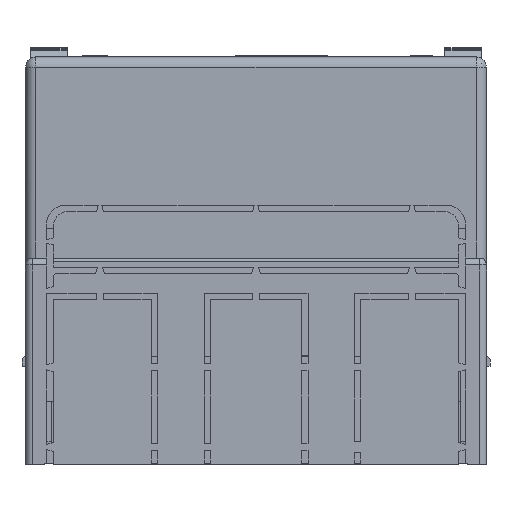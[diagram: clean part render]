
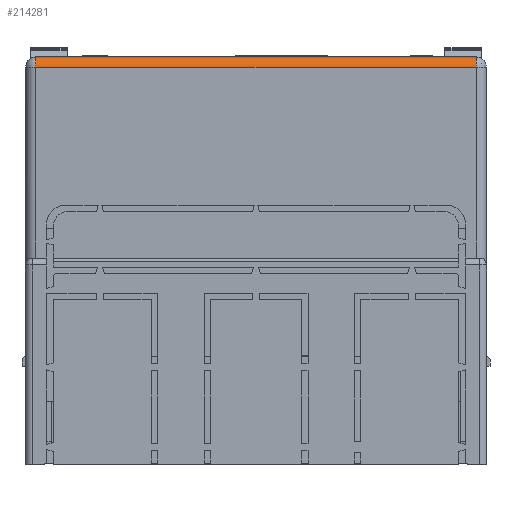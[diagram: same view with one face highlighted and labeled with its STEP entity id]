
A CAD part, left-side view. The second image highlights one B-rep face of the part: STEP entity #214281.
In plain terms, the highlighted cylindrical face has radius 3 mm (diameter 6 mm), a partial arc.
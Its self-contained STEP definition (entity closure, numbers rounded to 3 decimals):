
#6467 = EDGE_CURVE ( 'NONE', #32351, #105534, #76362, .T. ) ;
#11832 = LINE ( 'NONE', #180561, #218355 ) ;
#14638 = ORIENTED_EDGE ( 'NONE', *, *, #203764, .F. ) ;
#22490 = DIRECTION ( 'NONE',  ( 1., 0., 0. ) ) ;
#29058 = DIRECTION ( 'NONE',  ( 0., -1., 0. ) ) ;
#32351 = VERTEX_POINT ( 'NONE', #153408 ) ;
#37476 = ORIENTED_EDGE ( 'NONE', *, *, #254498, .F. ) ;
#54032 = CARTESIAN_POINT ( 'NONE',  ( -5.103, 139.752, -8.036 ) ) ;
#55521 = CARTESIAN_POINT ( 'NONE',  ( -8.103, 139.752, -11.036 ) ) ;
#76362 = LINE ( 'NONE', #103376, #136939 ) ;
#80007 = CARTESIAN_POINT ( 'NONE',  ( -5.103, 316.131, -11.036 ) ) ;
#81771 = DIRECTION ( 'NONE',  ( 0., 1., 0. ) ) ;
#103376 = CARTESIAN_POINT ( 'NONE',  ( -8.103, 9.752, -11.036 ) ) ;
#105534 = VERTEX_POINT ( 'NONE', #55521 ) ;
#112753 = AXIS2_PLACEMENT_3D ( 'NONE', #257951, #281639, #22490 ) ;
#116995 = ORIENTED_EDGE ( 'NONE', *, *, #161727, .F. ) ;
#125200 = DIRECTION ( 'NONE',  ( 0., -1., 0. ) ) ;
#131970 = DIRECTION ( 'NONE',  ( 1., 0., 0. ) ) ;
#136939 = VECTOR ( 'NONE', #81771, 1000. ) ;
#147644 = AXIS2_PLACEMENT_3D ( 'NONE', #80007, #29058, #131970 ) ;
#153408 = CARTESIAN_POINT ( 'NONE',  ( -8.103, 12.752, -11.036 ) ) ;
#158115 = FACE_OUTER_BOUND ( 'NONE', #159289, .T. ) ;
#159289 = EDGE_LOOP ( 'NONE', ( #263742, #14638, #37476, #116995 ) ) ;
#161727 = EDGE_CURVE ( 'NONE', #105534, #220985, #288124, .T. ) ;
#180561 = CARTESIAN_POINT ( 'NONE',  ( -5.103, 9.752, -8.036 ) ) ;
#203764 = EDGE_CURVE ( 'NONE', #211326, #32351, #254048, .T. ) ;
#206504 = CYLINDRICAL_SURFACE ( 'NONE', #147644, 3. ) ;
#211326 = VERTEX_POINT ( 'NONE', #295038 ) ;
#214281 = ADVANCED_FACE ( 'NONE', ( #158115 ), #206504, .T. ) ;
#218355 = VECTOR ( 'NONE', #125200, 1000. ) ;
#220985 = VERTEX_POINT ( 'NONE', #54032 ) ;
#225177 = AXIS2_PLACEMENT_3D ( 'NONE', #269062, #297100, #320910 ) ;
#254048 = CIRCLE ( 'NONE', #225177, 3. ) ;
#254498 = EDGE_CURVE ( 'NONE', #220985, #211326, #11832, .T. ) ;
#257951 = CARTESIAN_POINT ( 'NONE',  ( -5.103, 139.752, -11.036 ) ) ;
#263742 = ORIENTED_EDGE ( 'NONE', *, *, #6467, .F. ) ;
#269062 = CARTESIAN_POINT ( 'NONE',  ( -5.103, 12.752, -11.036 ) ) ;
#281639 = DIRECTION ( 'NONE',  ( 0., 1., 0. ) ) ;
#288124 = CIRCLE ( 'NONE', #112753, 3. ) ;
#295038 = CARTESIAN_POINT ( 'NONE',  ( -5.103, 12.752, -8.036 ) ) ;
#297100 = DIRECTION ( 'NONE',  ( 0., -1., 0. ) ) ;
#320910 = DIRECTION ( 'NONE',  ( 1., 0., 0. ) ) ;
